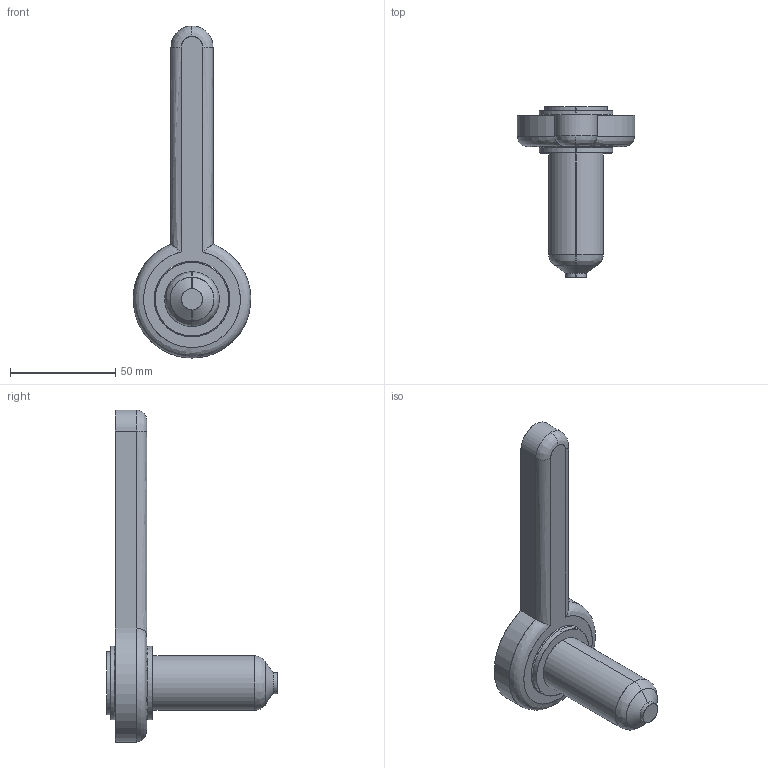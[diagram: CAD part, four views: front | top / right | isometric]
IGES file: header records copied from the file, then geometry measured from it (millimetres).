
Start section: SolidWorks IGES file using analytic representation for surfaces
Global section: file name: C:\Documents and Settings\ws-20\Desktop\TEM\Sede UGEP3151-S-A C-59 L-79 P-0.IGS; native system: SolidWorks 2012; preprocessor: SolidWorks 2012; author: ws-20; date: 120404.085141; units: millimetre
Bounding box: 56 x 81.15 x 158 mm (x, y, z)
Surface area: 18752.3 mm2 (no closed solid volume)
Topology: 0 solids, 0 shells, 34 faces, 754 edges, 754 vertices
Faces by surface type: revolution 21, bspline 13
